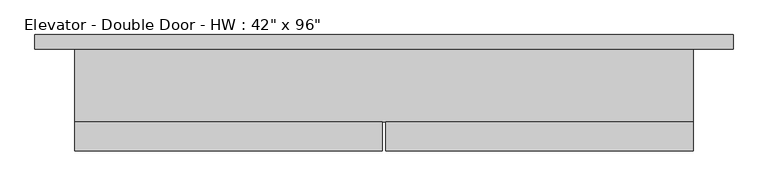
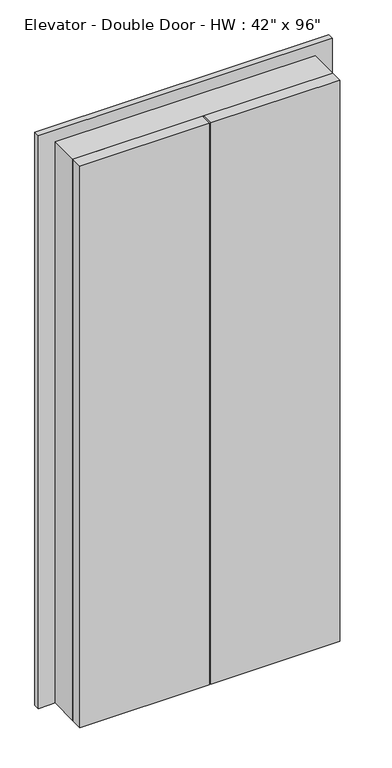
"""IFC4 building model written with IfcOpenShell, lengths in millimetres: proxy geometry."""

from ifc_helpers import new_model, si_unit, frame, origin, origin_with_axes, place, context, project, spatial, polyline, outline, extrude, source, transform, mapped, element, save


def proxy_6c0da019(model_context):
    return source(origin(), model_context, "Body", "SweptSolid", [
        extrude(outline(polyline([(-102.3106443, -63.5), (-102.3106443, -114.3), (-638.8856443, -114.3), (-638.8856443, -63.5), (-102.3106443, -63.5)])), origin_with_axes(), (0.0, 0.0, 1.0), 2463.8),
        extrude(outline(polyline([(440.6143557, -63.5), (440.6143557, -114.3), (-95.9606443, -114.3), (-95.9606443, -63.5), (440.6143557, -63.5)])), origin_with_axes(), (0.0, 0.0, 1.0), 2463.8),
        extrude(outline(polyline([(0.0, -638.8856443), (0.0, -632.5356443), (2438.4, -632.5356443), (2438.4, 434.2643557), (0.0, 434.2643557), (0.0, 440.6143557), (2463.8, 440.6143557), (2463.8, -638.8856443), (0.0, -638.8856443)])), frame((0.0, -63.5, 0.0), z_axis=(0.0, 1.0, 0.0), x_axis=(0.0, 0.0, 1.0)), (0.0, 0.0, 1.0), 127.0),
        extrude(outline(polyline([(0.0, -708.7356443), (0.0, -632.5356443), (2438.4, -632.5356443), (2438.4, 434.2643557), (0.0, 434.2643557), (0.0, 510.4643557), (2514.6, 510.4643557), (2514.6, -708.7356443), (0.0, -708.7356443)])), frame((0.0, 63.5, 0.0), z_axis=(0.0, 1.0, 0.0), x_axis=(0.0, 0.0, 1.0)), (0.0, 0.0, 1.0), 25.4),
    ])


if __name__ == "__main__":
    model = new_model("IFC4")
    model_context = context("Model", 3, world=origin())
    ifc_project = project(units=[si_unit("LENGTHUNIT", "METRE", prefix="MILLI")], contexts=[model_context])
    site = spatial("IfcSite", under=ifc_project)
    building = spatial("IfcBuilding", under=site)
    placement = place(None, origin())
    proxy_shape = proxy_6c0da019(model_context)
    element("IfcBuildingElementProxy", 1, Name="Elevator - Double Door - HW : 42\" x 96\"", ObjectType="Elevator - Double Door - HW : 42\" x 96\"", at=placement, inside=building, context=model_context, shape_type="MappedRepresentation", body=[
        mapped(proxy_shape, transform((0.0, 0.0, 0.0), x_axis=(1.0, 0.0, 0.0), y_axis=(0.0, 1.0, 0.0), z_axis=(0.0, 0.0, 1.0))),
    ])
    save(model, "model.ifc")
